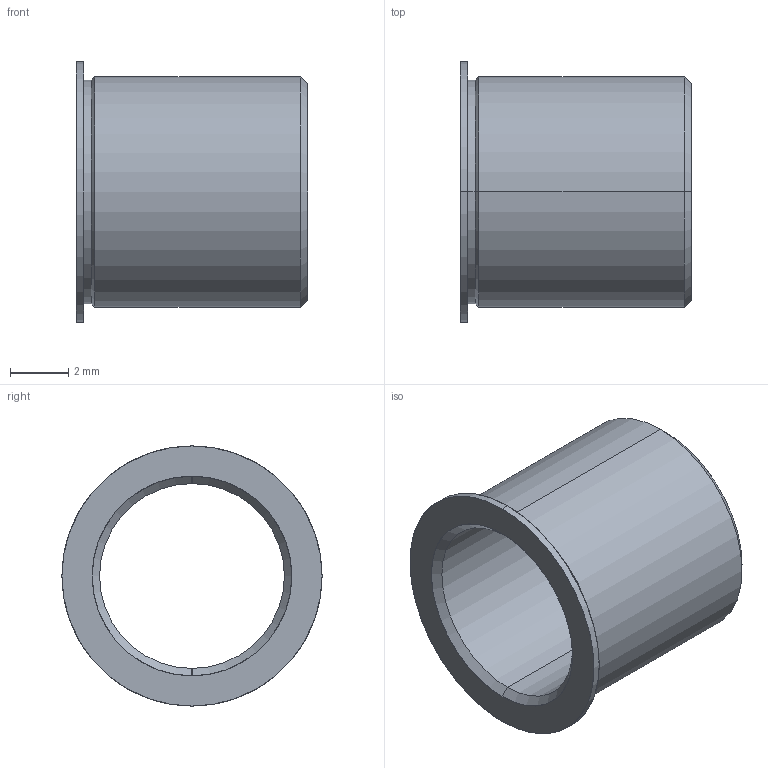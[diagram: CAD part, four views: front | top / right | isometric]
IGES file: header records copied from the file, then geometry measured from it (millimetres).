
Start section: SolidWorks IGES file using analytic representation for surfaces
Global section: file name: C:\Users\workpc\Desktop\KMA Solidworks\TS250-100 Series\TB250-80-313.IGS; native system: SolidWorks 2013; preprocessor: SolidWorks 2013; author: workpc; date: 130213.101309; units: inch
Bounding box: 7.95 x 8.94 x 8.94 mm (x, y, z)
Surface area: 414.5 mm2 (no closed solid volume)
Topology: 0 solids, 0 shells, 19 faces, 256 edges, 256 vertices
Faces by surface type: revolution 16, bspline 3
